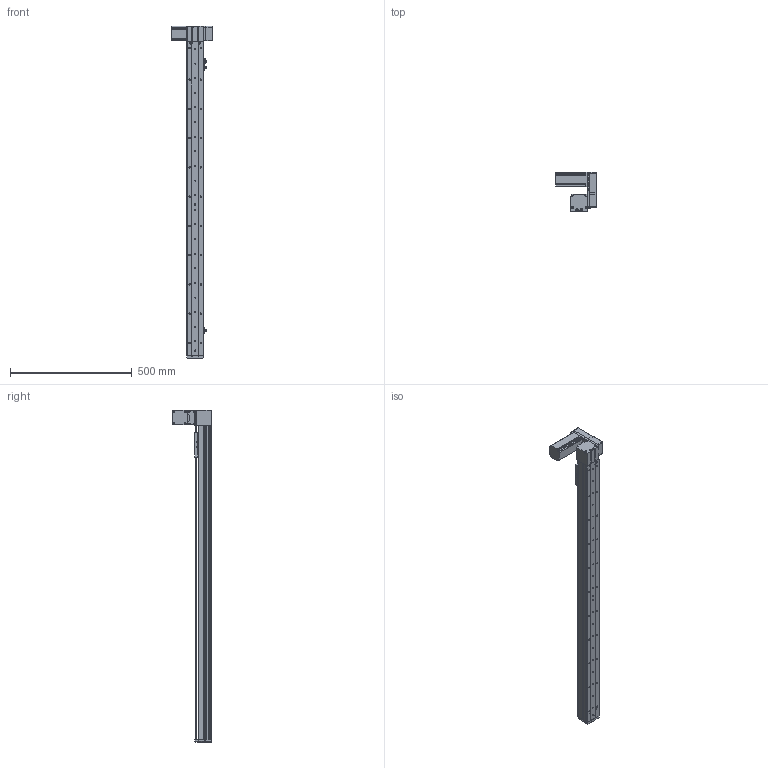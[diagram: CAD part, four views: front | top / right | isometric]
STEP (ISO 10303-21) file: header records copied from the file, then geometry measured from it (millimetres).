
FILE_DESCRIPTION (( 'STEP AP214' ), '1' );
FILE_NAME ('KSD68BS-S1100-MLU-CM.STEP', '2019-08-22T03:07:14', ( '微软用户' ), ( '微软中国' ), 'SwSTEP 2.0', 'SolidWorks 2014', '' );
FILE_SCHEMA (( 'AUTOMOTIVE_DESIGN' ));
Length unit declared in the file: millimetre
Products named in the file (11): 台达ECMA－C20604AS伺服电机（400W); KSD68BS 1100俴最菁啣圉猾敕; KSD68BS-S1100-MLU-CM; 悵誘欶奻狟殏; 68宽马达安装板连板上折同步带; 68宽单导轨半封闭同步带主动轮座左; 68单导轨同步带半封闭端板; KSD68BS 1100俴最裔啣圉猾敕; 覜茼え68遵圉猾敕; KSD68BS半封闭同步带传动导轨座; U倰嫖萇EEㄜSX672
Assembly tree (12 placements, depth 2):
  KSD68BS-S1100-MLU-CM
    KSD68BS 1100俴最菁啣圉猾敕
    台达ECMA－C20604AS伺服电机（400W)
    U倰嫖萇EEㄜSX672  x3
    KSD68BS半封闭同步带传动导轨座
    覜茼え68遵圉猾敕
    KSD68BS 1100俴最裔啣圉猾敕
    68单导轨同步带半封闭端板
    68宽单导轨半封闭同步带主动轮座左
    68宽马达安装板连板上折同步带
    悵誘欶奻狟殏
Bounding box: 167.2 x 159.5 x 1362 mm (x, y, z)
Volume: 2497047.6 mm3; surface area: 890733.3 mm2
Topology: 13 solids, 13 shells, 1440 faces, 4162 edges, 2708 vertices
Faces by surface type: cylinder 732, plane 625, cone 83
Entity records: 53982 total; most frequent: CARTESIAN_POINT 10478, ORIENTED_EDGE 7076, DIRECTION 6946, EDGE_CURVE 3538, AXIS2_PLACEMENT_3D 2496, VERTEX_POINT 2332, VECTOR 1954, LINE 1954
